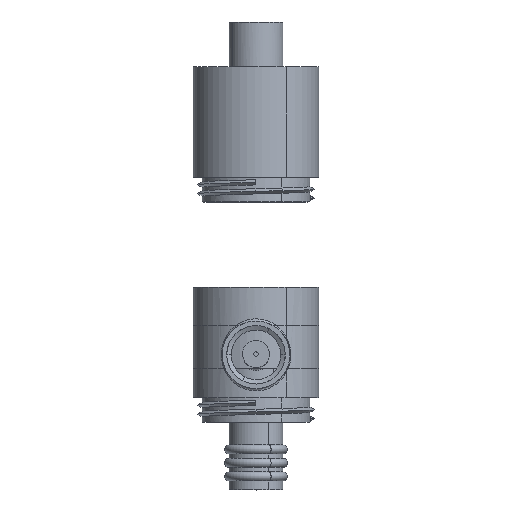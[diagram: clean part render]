
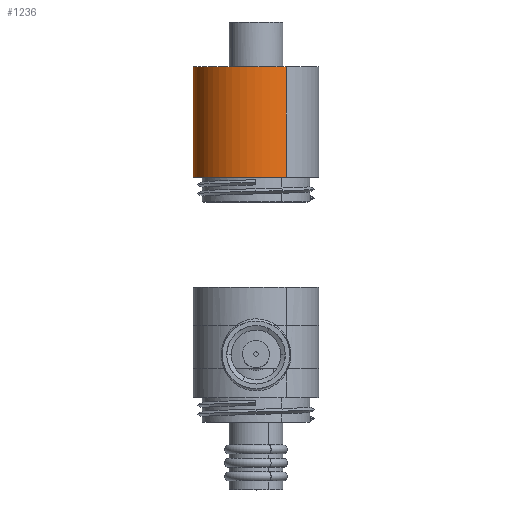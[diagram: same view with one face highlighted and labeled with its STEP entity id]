
A CAD part, top view. The second image highlights one B-rep face of the part: STEP entity #1236.
In plain terms, the highlighted cylindrical face has radius 14 mm (diameter 28 mm), a partial arc.
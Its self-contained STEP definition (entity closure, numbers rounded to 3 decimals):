
#635=CYLINDRICAL_SURFACE('',#12735,14.);
#1236=ADVANCED_FACE('',(#2104),#635,.T.);
#2104=FACE_OUTER_BOUND('',#2879,.T.);
#2879=EDGE_LOOP('',(#6270,#6271,#6272,#6273));
#6270=ORIENTED_EDGE('',*,*,#10003,.F.);
#6271=ORIENTED_EDGE('',*,*,#10008,.T.);
#6272=ORIENTED_EDGE('',*,*,#10009,.T.);
#6273=ORIENTED_EDGE('',*,*,#10006,.T.);
#8155=VERTEX_POINT('',#37839);
#8156=VERTEX_POINT('',#37840);
#8159=VERTEX_POINT('',#37911);
#8160=VERTEX_POINT('',#37930);
#10003=EDGE_CURVE('',#8156,#8155,#12006,.T.);
#10006=EDGE_CURVE('',#8159,#8155,#12009,.T.);
#10008=EDGE_CURVE('',#8156,#8160,#12011,.T.);
#10009=EDGE_CURVE('',#8160,#8159,#12012,.T.);
#12006=B_SPLINE_CURVE_WITH_KNOTS('',3,(#37841,#37842,#37843,#37844,#37845,
#37846,#37847,#37848,#37849,#37850,#37851,#37852,#37853,#37854,#37855,#37856,
#37857,#37858,#37859,#37860,#37861,#37862,#37863,#37864,#37865,#37866),
 .UNSPECIFIED.,.F.,.F.,(4,2,2,2,2,2,2,2,2,2,2,2,4),(0.,0.125,0.188,0.25,
0.313,0.375,0.5,0.625,0.688,0.75,0.813,0.875,1.),.UNSPECIFIED.);
#12009=B_SPLINE_CURVE_WITH_KNOTS('',3,(#37907,#37908,#37909,#37910),
 .UNSPECIFIED.,.F.,.F.,(4,4),(0.,1.),.UNSPECIFIED.);
#12011=B_SPLINE_CURVE_WITH_KNOTS('',3,(#37931,#37932,#37933,#37934),
 .UNSPECIFIED.,.F.,.F.,(4,4),(0.,1.),.UNSPECIFIED.);
#12012=B_SPLINE_CURVE_WITH_KNOTS('',3,(#37936,#37937,#37938,#37939,#37940,
#37941,#37942,#37943,#37944,#37945,#37946,#37947,#37948,#37949,#37950,#37951,
#37952,#37953),.UNSPECIFIED.,.F.,.F.,(4,2,2,2,2,2,2,2,4),(0.,0.125,0.25,
0.375,0.5,0.625,0.75,0.875,1.),.UNSPECIFIED.);
#12735=AXIS2_PLACEMENT_3D('',#37954,#13477,#13478);
#13477=DIRECTION('',(0.,1.,0.));
#13478=DIRECTION('',(-0.479,0.,-0.878));
#37839=CARTESIAN_POINT('',(6.712,30.,12.286));
#37840=CARTESIAN_POINT('',(-6.712,30.,-12.286));
#37841=CARTESIAN_POINT('',(-6.712,30.,-12.286));
#37842=CARTESIAN_POINT('',(-8.32,30.,-11.408));
#37843=CARTESIAN_POINT('',(-9.753,30.,-10.21));
#37844=CARTESIAN_POINT('',(-11.477,30.,-8.069));
#37845=CARTESIAN_POINT('',(-11.982,30.,-7.298));
#37846=CARTESIAN_POINT('',(-12.831,30.,-5.675));
#37847=CARTESIAN_POINT('',(-13.175,30.,-4.821));
#37848=CARTESIAN_POINT('',(-13.691,30.,-3.062));
#37849=CARTESIAN_POINT('',(-13.863,30.,-2.158));
#37850=CARTESIAN_POINT('',(-14.026,30.,-0.332));
#37851=CARTESIAN_POINT('',(-14.017,30.,0.588));
#37852=CARTESIAN_POINT('',(-13.723,30.,3.321));
#37853=CARTESIAN_POINT('',(-13.165,30.,5.104));
#37854=CARTESIAN_POINT('',(-11.408,30.,8.32));
#37855=CARTESIAN_POINT('',(-10.21,30.,9.753));
#37856=CARTESIAN_POINT('',(-8.069,30.,11.477));
#37857=CARTESIAN_POINT('',(-7.298,30.,11.982));
#37858=CARTESIAN_POINT('',(-5.675,30.,12.831));
#37859=CARTESIAN_POINT('',(-4.821,30.,13.175));
#37860=CARTESIAN_POINT('',(-3.062,30.,13.691));
#37861=CARTESIAN_POINT('',(-2.158,30.,13.863));
#37862=CARTESIAN_POINT('',(-0.332,30.,14.026));
#37863=CARTESIAN_POINT('',(0.588,30.,14.017));
#37864=CARTESIAN_POINT('',(3.321,30.,13.723));
#37865=CARTESIAN_POINT('',(5.104,30.,13.165));
#37866=CARTESIAN_POINT('',(6.712,30.,12.286));
#37907=CARTESIAN_POINT('',(6.712,5.5,12.286));
#37908=CARTESIAN_POINT('',(6.712,13.667,12.286));
#37909=CARTESIAN_POINT('',(6.712,21.833,12.286));
#37910=CARTESIAN_POINT('',(6.712,30.,12.286));
#37911=CARTESIAN_POINT('',(6.712,5.5,12.286));
#37930=CARTESIAN_POINT('',(-6.712,5.5,-12.286));
#37931=CARTESIAN_POINT('',(-6.712,30.,-12.286));
#37932=CARTESIAN_POINT('',(-6.712,21.833,-12.286));
#37933=CARTESIAN_POINT('',(-6.712,13.667,-12.286));
#37934=CARTESIAN_POINT('',(-6.712,5.5,-12.286));
#37936=CARTESIAN_POINT('',(-6.712,5.5,-12.286));
#37937=CARTESIAN_POINT('',(-8.32,5.5,-11.408));
#37938=CARTESIAN_POINT('',(-9.753,5.5,-10.21));
#37939=CARTESIAN_POINT('',(-12.052,5.5,-7.355));
#37940=CARTESIAN_POINT('',(-12.918,5.5,-5.7));
#37941=CARTESIAN_POINT('',(-13.95,5.5,-2.183));
#37942=CARTESIAN_POINT('',(-14.116,5.5,-0.323));
#37943=CARTESIAN_POINT('',(-13.723,5.5,3.321));
#37944=CARTESIAN_POINT('',(-13.165,5.5,5.104));
#37945=CARTESIAN_POINT('',(-11.408,5.5,8.32));
#37946=CARTESIAN_POINT('',(-10.21,5.5,9.753));
#37947=CARTESIAN_POINT('',(-7.355,5.5,12.052));
#37948=CARTESIAN_POINT('',(-5.7,5.5,12.918));
#37949=CARTESIAN_POINT('',(-2.183,5.5,13.95));
#37950=CARTESIAN_POINT('',(-0.323,5.5,14.116));
#37951=CARTESIAN_POINT('',(3.321,5.5,13.723));
#37952=CARTESIAN_POINT('',(5.104,5.5,13.165));
#37953=CARTESIAN_POINT('',(6.712,5.5,12.286));
#37954=CARTESIAN_POINT('',(0.,15.,0.));
